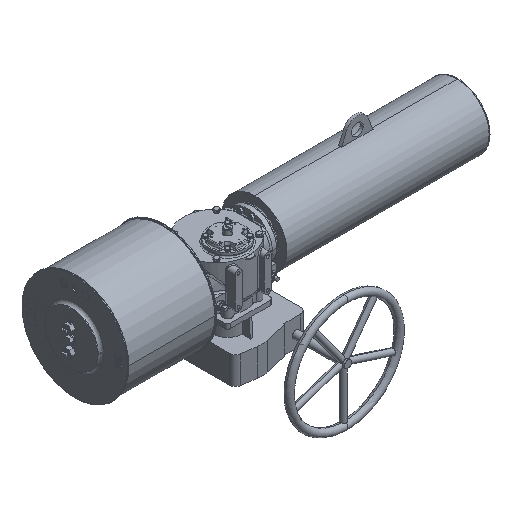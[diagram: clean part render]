
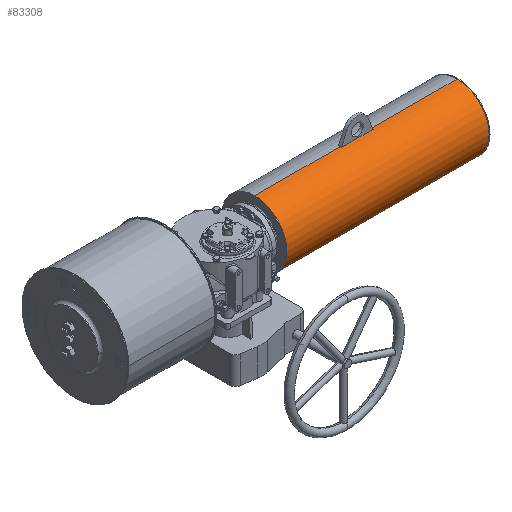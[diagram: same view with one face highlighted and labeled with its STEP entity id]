
A CAD part, isometric view. The second image highlights one B-rep face of the part: STEP entity #83308.
In plain terms, the highlighted cylindrical face has radius 109.5 mm (diameter 219 mm), a partial arc.
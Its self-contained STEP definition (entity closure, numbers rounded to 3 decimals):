
#2433 = DIRECTION ( 'NONE',  ( -1., 0., 0. ) ) ;
#8928 = CARTESIAN_POINT ( 'NONE',  ( 444., 17.5, 166.886 ) ) ;
#9813 = VERTEX_POINT ( 'NONE', #41810 ) ;
#10664 = CARTESIAN_POINT ( 'NONE',  ( 153., 22.5, -52. ) ) ;
#11069 = EDGE_CURVE ( 'NONE', #9813, #77361, #23266, .T. ) ;
#12917 = CARTESIAN_POINT ( 'NONE',  ( 839.5, 22.5, 57.5 ) ) ;
#13837 = VECTOR ( 'NONE', #58227, 1000. ) ;
#13953 = CIRCLE ( 'NONE', #78934, 109.5 ) ;
#16121 = VERTEX_POINT ( 'NONE', #86777 ) ;
#16782 = EDGE_CURVE ( 'NONE', #16121, #45106, #43388, .T. ) ;
#17655 = DIRECTION ( 'NONE',  ( 0., 1., 0. ) ) ;
#20604 = CARTESIAN_POINT ( 'NONE',  ( 843., 22.5, 57.5 ) ) ;
#21460 = ORIENTED_EDGE ( 'NONE', *, *, #91144, .T. ) ;
#21549 = VERTEX_POINT ( 'NONE', #10664 ) ;
#23266 = CIRCLE ( 'NONE', #64612, 109.5 ) ;
#25502 = DIRECTION ( 'NONE',  ( 1., 0., 0. ) ) ;
#26339 = CYLINDRICAL_SURFACE ( 'NONE', #73646, 109.5 ) ;
#26581 = DIRECTION ( 'NONE',  ( 1., 0., 0. ) ) ;
#27036 = CARTESIAN_POINT ( 'NONE',  ( 153., 22.5, 57.5 ) ) ;
#27612 = ORIENTED_EDGE ( 'NONE', *, *, #34544, .T. ) ;
#28496 = VECTOR ( 'NONE', #84775, 1000. ) ;
#29378 = DIRECTION ( 'NONE',  ( 1., 0., 0. ) ) ;
#31472 = CIRCLE ( 'NONE', #52177, 109.5 ) ;
#31547 = ORIENTED_EDGE ( 'NONE', *, *, #11069, .T. ) ;
#34437 = CIRCLE ( 'NONE', #53564, 109.5 ) ;
#34544 = EDGE_CURVE ( 'NONE', #57283, #45512, #31472, .T. ) ;
#34626 = DIRECTION ( 'NONE',  ( -1., 0., 0. ) ) ;
#36229 = CARTESIAN_POINT ( 'NONE',  ( 839.5, 22.5, -52. ) ) ;
#38617 = CIRCLE ( 'NONE', #45989, 109.5 ) ;
#41369 = EDGE_LOOP ( 'NONE', ( #31547, #78154, #65028, #46765, #89975, #27612, #21460, #78294, #42902, #88955 ) ) ;
#41810 = CARTESIAN_POINT ( 'NONE',  ( 843., 22.5, -52. ) ) ;
#42276 = LINE ( 'NONE', #71810, #28496 ) ;
#42902 = ORIENTED_EDGE ( 'NONE', *, *, #89565, .T. ) ;
#43388 = LINE ( 'NONE', #71120, #64660 ) ;
#44517 = CARTESIAN_POINT ( 'NONE',  ( 444., 22.5, 57.5 ) ) ;
#45106 = VERTEX_POINT ( 'NONE', #51367 ) ;
#45512 = VERTEX_POINT ( 'NONE', #74782 ) ;
#45989 = AXIS2_PLACEMENT_3D ( 'NONE', #64976, #29378, #77475 ) ;
#46765 = ORIENTED_EDGE ( 'NONE', *, *, #47533, .T. ) ;
#47533 = EDGE_CURVE ( 'NONE', #45106, #82422, #34437, .T. ) ;
#48291 = DIRECTION ( 'NONE',  ( 0., 0., -1. ) ) ;
#48952 = CARTESIAN_POINT ( 'NONE',  ( 552., 17.5, 166.886 ) ) ;
#49849 = CARTESIAN_POINT ( 'NONE',  ( 843., 22.5, 57.5 ) ) ;
#51099 = VERTEX_POINT ( 'NONE', #74646 ) ;
#51278 = LINE ( 'NONE', #71647, #13837 ) ;
#51367 = CARTESIAN_POINT ( 'NONE',  ( 552., 22.5, 167. ) ) ;
#52004 = EDGE_CURVE ( 'NONE', #51099, #85003, #13953, .T. ) ;
#52177 = AXIS2_PLACEMENT_3D ( 'NONE', #44517, #80535, #17655 ) ;
#53564 = AXIS2_PLACEMENT_3D ( 'NONE', #81445, #25502, #87936 ) ;
#55116 = VECTOR ( 'NONE', #2433, 1000. ) ;
#55471 = FACE_OUTER_BOUND ( 'NONE', #41369, .T. ) ;
#55569 = EDGE_CURVE ( 'NONE', #77361, #16121, #58551, .T. ) ;
#57283 = VERTEX_POINT ( 'NONE', #8928 ) ;
#58155 = DIRECTION ( 'NONE',  ( -1., 0., 0. ) ) ;
#58227 = DIRECTION ( 'NONE',  ( -1., 0., 0. ) ) ;
#58551 = CIRCLE ( 'NONE', #74833, 109.5 ) ;
#61784 = DIRECTION ( 'NONE',  ( -1., 0., 0. ) ) ;
#64055 = CARTESIAN_POINT ( 'NONE',  ( 153., -87., 57.5 ) ) ;
#64612 = AXIS2_PLACEMENT_3D ( 'NONE', #49849, #34626, #91011 ) ;
#64660 = VECTOR ( 'NONE', #58155, 1000. ) ;
#64976 = CARTESIAN_POINT ( 'NONE',  ( 153., 22.5, 57.5 ) ) ;
#65028 = ORIENTED_EDGE ( 'NONE', *, *, #16782, .T. ) ;
#65765 = LINE ( 'NONE', #36229, #55116 ) ;
#68924 = CARTESIAN_POINT ( 'NONE',  ( 843., -87., 57.5 ) ) ;
#71120 = CARTESIAN_POINT ( 'NONE',  ( 839.5, 22.5, 167. ) ) ;
#71647 = CARTESIAN_POINT ( 'NONE',  ( 839.5, 17.5, 166.886 ) ) ;
#71810 = CARTESIAN_POINT ( 'NONE',  ( 839.5, 22.5, 167. ) ) ;
#73646 = AXIS2_PLACEMENT_3D ( 'NONE', #12917, #74419, #82739 ) ;
#73805 = EDGE_CURVE ( 'NONE', #9813, #21549, #65765, .T. ) ;
#74419 = DIRECTION ( 'NONE',  ( -1., 0., 0. ) ) ;
#74646 = CARTESIAN_POINT ( 'NONE',  ( 153., 22.5, 167. ) ) ;
#74782 = CARTESIAN_POINT ( 'NONE',  ( 444., 22.5, 167. ) ) ;
#74833 = AXIS2_PLACEMENT_3D ( 'NONE', #20604, #61784, #83494 ) ;
#76772 = EDGE_CURVE ( 'NONE', #82422, #57283, #51278, .T. ) ;
#77361 = VERTEX_POINT ( 'NONE', #68924 ) ;
#77475 = DIRECTION ( 'NONE',  ( 0., 0., -1. ) ) ;
#78154 = ORIENTED_EDGE ( 'NONE', *, *, #55569, .T. ) ;
#78294 = ORIENTED_EDGE ( 'NONE', *, *, #52004, .T. ) ;
#78934 = AXIS2_PLACEMENT_3D ( 'NONE', #27036, #26581, #48291 ) ;
#80535 = DIRECTION ( 'NONE',  ( -1., 0., 0. ) ) ;
#81445 = CARTESIAN_POINT ( 'NONE',  ( 552., 22.5, 57.5 ) ) ;
#82422 = VERTEX_POINT ( 'NONE', #48952 ) ;
#82739 = DIRECTION ( 'NONE',  ( 0., 0., -1. ) ) ;
#83308 = ADVANCED_FACE ( 'NONE', ( #55471 ), #26339, .T. ) ;
#83494 = DIRECTION ( 'NONE',  ( 0., 0., -1. ) ) ;
#84775 = DIRECTION ( 'NONE',  ( -1., 0., 0. ) ) ;
#85003 = VERTEX_POINT ( 'NONE', #64055 ) ;
#86777 = CARTESIAN_POINT ( 'NONE',  ( 843., 22.5, 167. ) ) ;
#87936 = DIRECTION ( 'NONE',  ( 0., -1., 0. ) ) ;
#88955 = ORIENTED_EDGE ( 'NONE', *, *, #73805, .F. ) ;
#89565 = EDGE_CURVE ( 'NONE', #85003, #21549, #38617, .T. ) ;
#89975 = ORIENTED_EDGE ( 'NONE', *, *, #76772, .T. ) ;
#91011 = DIRECTION ( 'NONE',  ( 0., 0., -1. ) ) ;
#91144 = EDGE_CURVE ( 'NONE', #45512, #51099, #42276, .T. ) ;
